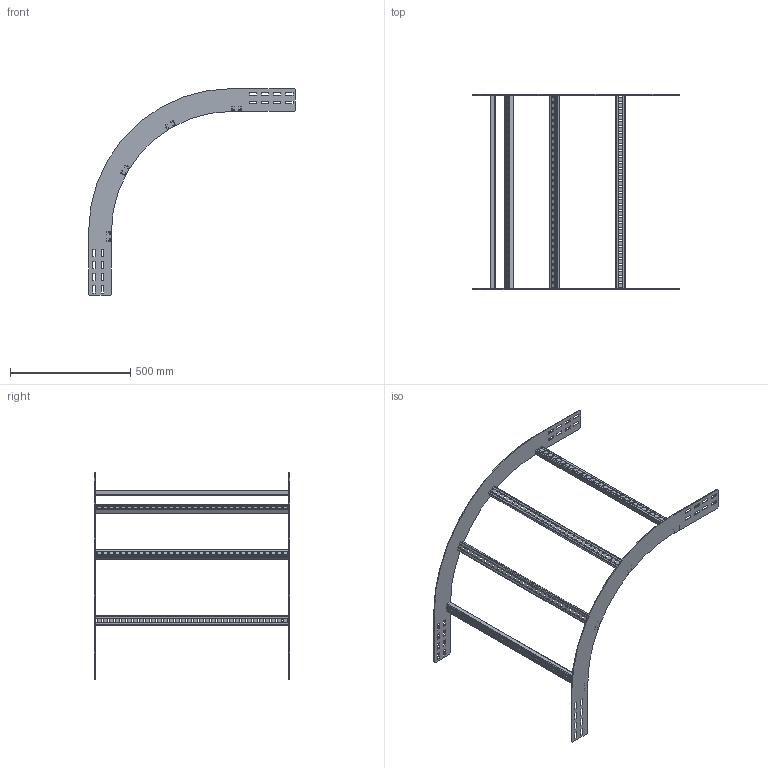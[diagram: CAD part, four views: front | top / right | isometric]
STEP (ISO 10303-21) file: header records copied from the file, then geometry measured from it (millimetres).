
FILE_DESCRIPTION(('Creo Elements/Direct Modeling STEP Export'),'2;1');
FILE_NAME('//pserver/office/EK/ME10-3D/3D-output/WPOR10-80-90-45.stp','2020-12-09T10:55:50',(''),(''),'PTC Creo Elements/Direct Modeling STEP processor for AP214 (Solid Model)','PTC Creo Elements/Direct Modeling 19.0C 15-Aug-2015 (C) Parametric Technology GmbH','');
FILE_SCHEMA(('AUTOMOTIVE_DESIGN { 1 0 10303 214 1 1 1 1 }'));
Length unit declared in the file: millimetre
Products named in the file (3): WPIBG100_450.1; WPSPF_080.1.1.1.1; WPOR10-80-90-45
Assembly tree (6 placements, depth 2):
  WPOR10-80-90-45
    WPSPF_080.1.1.1.1  x4
    WPIBG100_450.1  x2
Bounding box: 860 x 811 x 860 mm (x, y, z)
Volume: 1236733.4 mm3; surface area: 1187510.8 mm2
Topology: 6 solids, 6 shells, 844 faces, 2496 edges, 1664 vertices
Faces by surface type: plane 504, cylinder 340
Entity records: 8598 total; most frequent: CARTESIAN_POINT 1479, ORIENTED_EDGE 1476, DIRECTION 1413, EDGE_CURVE 738, VECTOR 561, LINE 561, VERTEX_POINT 492, AXIS2_PLACEMENT_3D 426
